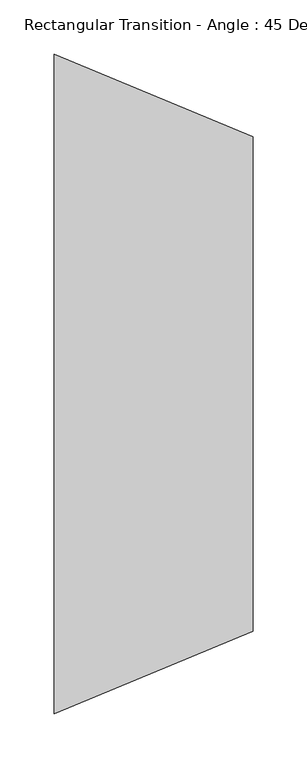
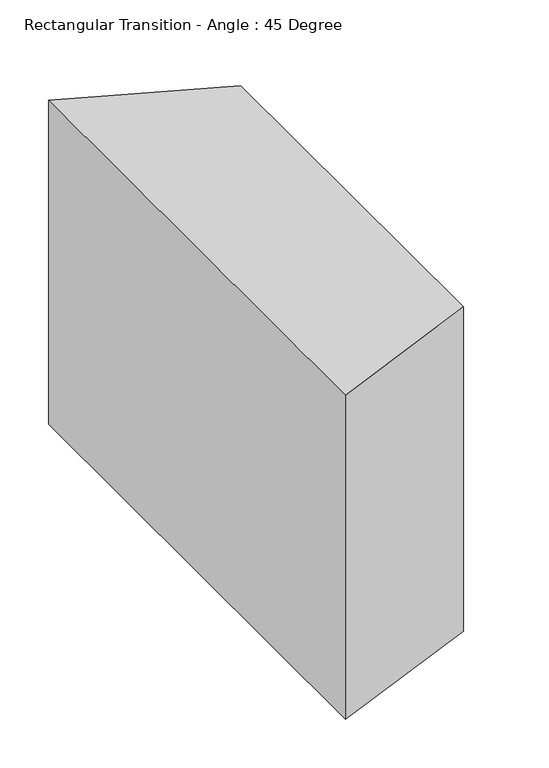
"""IFC4 building model written with IfcOpenShell, lengths in millimetres: duct fitting geometry, Rectangular Transition - Angle : 45 Degree."""

from ifc_helpers import new_model, si_unit, frame, origin, place, context, project, spatial, polyline, outline, extrude, source, transform, mapped, element, save


def rectangular_transition_angle_45_degree_104dd07f(model_context):
    return source(origin(), model_context, "Body", "SweptSolid", [
        extrude(outline(polyline([(0.0, -304.8), (0.0, 304.8), (183.9630735, 228.6), (183.9630735, -228.6), (0.0, -304.8)])), frame((0.0, 0.0, -203.2), z_axis=(0.0, 0.0, 1.0), x_axis=(1.0, 0.0, 0.0)), (0.0, 0.0, 1.0), 406.4),
    ])


if __name__ == "__main__":
    model = new_model("IFC4")
    model_context = context("Model", 3, world=origin())
    ifc_project = project(units=[si_unit("LENGTHUNIT", "METRE", prefix="MILLI")], contexts=[model_context])
    site = spatial("IfcSite", under=ifc_project)
    building = spatial("IfcBuilding", under=site)
    placement = place(None, origin())
    rectangular_transition_angle_45_degree_shape = rectangular_transition_angle_45_degree_104dd07f(model_context)
    element("IfcDuctFitting", 1, ObjectType="Rectangular Transition - Angle : 45 Degree", at=placement, inside=building, context=model_context, shape_type="MappedRepresentation", body=[
        mapped(rectangular_transition_angle_45_degree_shape, transform((0.0, 0.0, 0.0), x_axis=(1.0, 0.0, 0.0), y_axis=(0.0, 1.0, 0.0), z_axis=(0.0, 0.0, 1.0))),
    ])
    save(model, "model.ifc")
